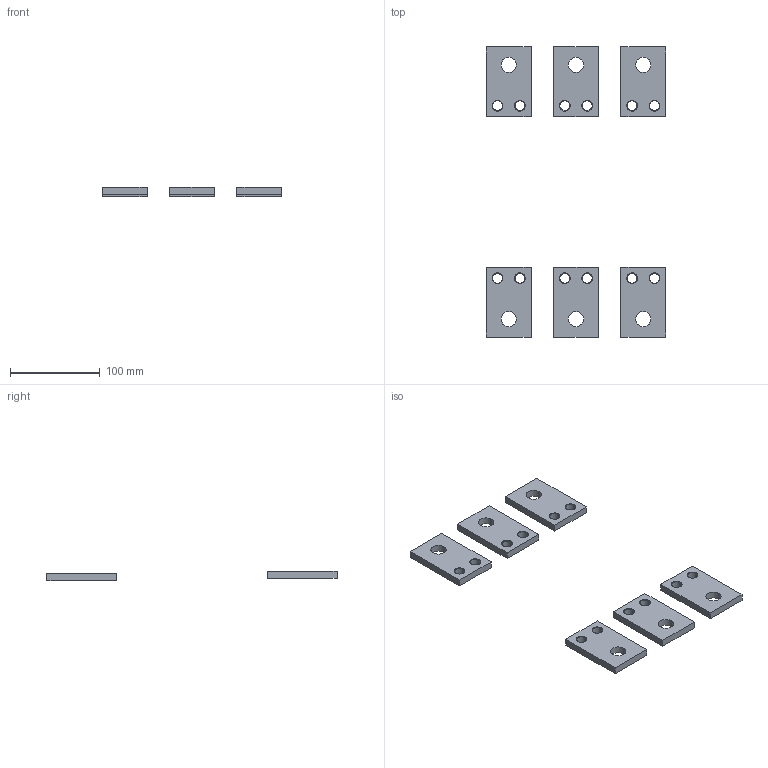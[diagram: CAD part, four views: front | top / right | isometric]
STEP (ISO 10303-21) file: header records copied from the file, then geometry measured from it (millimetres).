
FILE_DESCRIPTION (( 'STEP AP214' ), '1' );
FILE_NAME ('ÂÀ57-39 êîìïëåêò øèí (3).STEP', '2023-08-07T10:31:43', ( '' ), ( '' ), 'SwSTEP 2.0', 'SolidWorks 2018', '' );
FILE_SCHEMA (( 'AUTOMOTIVE_DESIGN' ));
Length unit declared in the file: millimetre
Products named in the file (1): ÂÀ57-39 êîìïëåêò øèí (3)
Bounding box: 200 x 323.4 x 11 mm (x, y, z)
Volume: 167128.4 mm3; surface area: 59846.9 mm2
Topology: 6 solids, 6 shells, 96 faces, 228 edges, 144 vertices
Faces by surface type: cylinder 36, plane 36, cone 24
Entity records: 3983 total; most frequent: DIRECTION 518, CARTESIAN_POINT 469, ORIENTED_EDGE 456, EDGE_CURVE 228, AXIS2_PLACEMENT_3D 193, VERTEX_POINT 144, VECTOR 132, LINE 132
